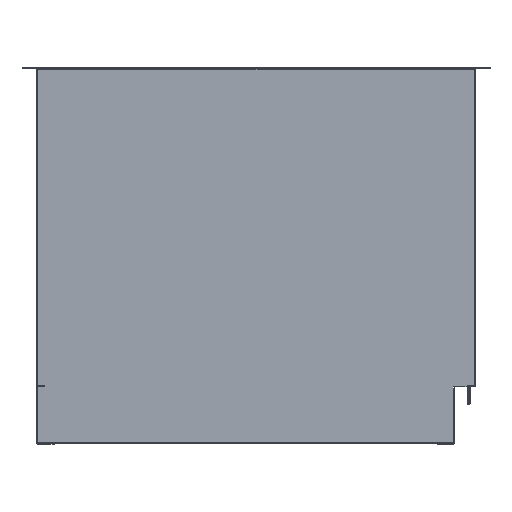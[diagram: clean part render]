
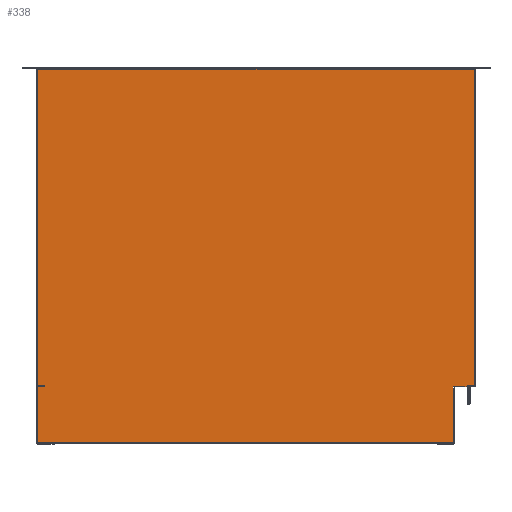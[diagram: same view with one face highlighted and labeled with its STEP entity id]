
A CAD part, front view. The second image highlights one B-rep face of the part: STEP entity #338.
In plain terms, the highlighted planar face has unit normal (0, -1, -0.013) as drawn and (0, 0, -1) by its records, which use the part's own axes.
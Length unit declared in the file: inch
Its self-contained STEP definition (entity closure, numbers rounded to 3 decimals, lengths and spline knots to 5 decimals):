
#173 = VECTOR ( 'NONE', #6915, 39.37008 ) ;
#275 = LINE ( 'NONE', #10869, #173 ) ;
#338 = ADVANCED_FACE ( 'NONE', ( #4353 ), #1109, .T. ) ;
#1027 = DIRECTION ( 'NONE',  ( -1., 0., 0. ) ) ;
#1076 = DIRECTION ( 'NONE',  ( 0., 0., -1. ) ) ;
#1109 = PLANE ( 'NONE',  #19616 ) ;
#1199 = VERTEX_POINT ( 'NONE', #22303 ) ;
#1306 = ORIENTED_EDGE ( 'NONE', *, *, #1468, .F. ) ;
#1341 = CARTESIAN_POINT ( 'NONE',  ( 42.54265, 1.01853, -0.06 ) ) ;
#1468 = EDGE_CURVE ( 'NONE', #13796, #9338, #20272, .T. ) ;
#1836 = EDGE_CURVE ( 'NONE', #7203, #2428, #18814, .T. ) ;
#2428 = VERTEX_POINT ( 'NONE', #25535 ) ;
#2785 = EDGE_CURVE ( 'NONE', #7513, #15012, #15628, .T. ) ;
#3073 = CARTESIAN_POINT ( 'NONE',  ( 11.93096, 0.77156, -0.06 ) ) ;
#3152 = DIRECTION ( 'NONE',  ( 0., -1., 0. ) ) ;
#3311 = ORIENTED_EDGE ( 'NONE', *, *, #22302, .F. ) ;
#3358 = VECTOR ( 'NONE', #9133, 39.37008 ) ;
#3447 = EDGE_CURVE ( 'NONE', #7431, #13258, #12624, .T. ) ;
#3510 = EDGE_CURVE ( 'NONE', #13796, #1199, #12276, .T. ) ;
#3658 = CARTESIAN_POINT ( 'NONE',  ( 47.73265, 42.78261, -0.06 ) ) ;
#3679 = VECTOR ( 'NONE', #20060, 39.37008 ) ;
#4166 = CARTESIAN_POINT ( 'NONE',  ( 42.54265, 2.76816, -0.06 ) ) ;
#4206 = VERTEX_POINT ( 'NONE', #6748 ) ;
#4301 = LINE ( 'NONE', #4166, #3679 ) ;
#4353 = FACE_OUTER_BOUND ( 'NONE', #13655, .T. ) ;
#4771 = ORIENTED_EDGE ( 'NONE', *, *, #16425, .F. ) ;
#4832 = DIRECTION ( 'NONE',  ( 0., -1., 0. ) ) ;
#4988 = DIRECTION ( 'NONE',  ( 0., -1., 0. ) ) ;
#5519 = VERTEX_POINT ( 'NONE', #3073 ) ;
#5821 = CARTESIAN_POINT ( 'NONE',  ( 47.73265, 42.666, -0.06 ) ) ;
#6451 = CARTESIAN_POINT ( 'NONE',  ( 42.54265, 2.71156, -0.06 ) ) ;
#6683 = EDGE_CURVE ( 'NONE', #7203, #13739, #275, .T. ) ;
#6748 = CARTESIAN_POINT ( 'NONE',  ( 42.41765, 0.76816, -0.06 ) ) ;
#6775 = CARTESIAN_POINT ( 'NONE',  ( 47.73265, 2.80531, -0.06 ) ) ;
#6915 = DIRECTION ( 'NONE',  ( -1., 0., 0. ) ) ;
#7203 = VERTEX_POINT ( 'NONE', #14223 ) ;
#7424 = CARTESIAN_POINT ( 'NONE',  ( 47.79265, 42.62886, -0.06 ) ) ;
#7431 = VERTEX_POINT ( 'NONE', #8173 ) ;
#7449 = DIRECTION ( 'NONE',  ( -1., 0., 0. ) ) ;
#7513 = VERTEX_POINT ( 'NONE', #5821 ) ;
#8136 = LINE ( 'NONE', #12810, #10353 ) ;
#8173 = CARTESIAN_POINT ( 'NONE',  ( 11.99935, 0.77156, -0.06 ) ) ;
#8442 = CARTESIAN_POINT ( 'NONE',  ( 11.99935, 42.666, -0.06 ) ) ;
#9054 = LINE ( 'NONE', #7424, #21834 ) ;
#9133 = DIRECTION ( 'NONE',  ( -1., 0., 0. ) ) ;
#9312 = ORIENTED_EDGE ( 'NONE', *, *, #3510, .T. ) ;
#9338 = VERTEX_POINT ( 'NONE', #16076 ) ;
#9365 = LINE ( 'NONE', #18150, #17469 ) ;
#9495 = VERTEX_POINT ( 'NONE', #9540 ) ;
#9540 = CARTESIAN_POINT ( 'NONE',  ( 11.93096, 42.66261, -0.06 ) ) ;
#9740 = ORIENTED_EDGE ( 'NONE', *, *, #18416, .T. ) ;
#10353 = VECTOR ( 'NONE', #12782, 39.37008 ) ;
#10869 = CARTESIAN_POINT ( 'NONE',  ( 42.54265, 2.77156, -0.06 ) ) ;
#10896 = LINE ( 'NONE', #20702, #17781 ) ;
#10941 = EDGE_CURVE ( 'NONE', #20852, #15012, #9054, .T. ) ;
#11031 = CARTESIAN_POINT ( 'NONE',  ( 42.54265, 0.76816, -0.06 ) ) ;
#11926 = CARTESIAN_POINT ( 'NONE',  ( 47.73605, 1.01853, -0.06 ) ) ;
#12185 = ORIENTED_EDGE ( 'NONE', *, *, #1836, .F. ) ;
#12252 = VECTOR ( 'NONE', #24742, 39.37008 ) ;
#12276 = LINE ( 'NONE', #6775, #12252 ) ;
#12540 = VECTOR ( 'NONE', #4832, 39.37008 ) ;
#12624 = LINE ( 'NONE', #17203, #12540 ) ;
#12782 = DIRECTION ( 'NONE',  ( 0., 1., 0. ) ) ;
#12810 = CARTESIAN_POINT ( 'NONE',  ( 11.93096, 1.01853, -0.06 ) ) ;
#12824 = ORIENTED_EDGE ( 'NONE', *, *, #22554, .T. ) ;
#13059 = DIRECTION ( 'NONE',  ( 0., 1., 0. ) ) ;
#13258 = VERTEX_POINT ( 'NONE', #15885 ) ;
#13655 = EDGE_LOOP ( 'NONE', ( #4771, #12824, #20932, #24270, #24024, #9740, #19845, #24555, #15159, #21673, #24108, #1306, #9312, #3311, #12185, #20261 ) ) ;
#13739 = VERTEX_POINT ( 'NONE', #24292 ) ;
#13782 = EDGE_CURVE ( 'NONE', #7431, #5519, #21527, .T. ) ;
#13796 = VERTEX_POINT ( 'NONE', #15852 ) ;
#13933 = LINE ( 'NONE', #24561, #20890 ) ;
#14034 = CARTESIAN_POINT ( 'NONE',  ( 42.41765, 0.71156, -0.06 ) ) ;
#14223 = CARTESIAN_POINT ( 'NONE',  ( 42.54265, 2.77156, -0.06 ) ) ;
#14414 = LINE ( 'NONE', #11031, #3358 ) ;
#15012 = VERTEX_POINT ( 'NONE', #20666 ) ;
#15159 = ORIENTED_EDGE ( 'NONE', *, *, #2785, .T. ) ;
#15188 = CARTESIAN_POINT ( 'NONE',  ( 11.99935, 42.66261, -0.06 ) ) ;
#15205 = EDGE_CURVE ( 'NONE', #5519, #9495, #8136, .T. ) ;
#15628 = LINE ( 'NONE', #3658, #15729 ) ;
#15729 = VECTOR ( 'NONE', #3152, 39.37008 ) ;
#15852 = CARTESIAN_POINT ( 'NONE',  ( 47.73265, 2.80531, -0.06 ) ) ;
#15885 = CARTESIAN_POINT ( 'NONE',  ( 11.99935, 0.76816, -0.06 ) ) ;
#16076 = CARTESIAN_POINT ( 'NONE',  ( 47.73605, 2.80531, -0.06 ) ) ;
#16092 = EDGE_CURVE ( 'NONE', #23866, #7513, #9365, .T. ) ;
#16269 = VERTEX_POINT ( 'NONE', #15188 ) ;
#16425 = EDGE_CURVE ( 'NONE', #4206, #13739, #25455, .T. ) ;
#17203 = CARTESIAN_POINT ( 'NONE',  ( 11.99935, -0.98147, -0.06 ) ) ;
#17469 = VECTOR ( 'NONE', #18182, 39.37008 ) ;
#17781 = VECTOR ( 'NONE', #20619, 39.37008 ) ;
#18127 = EDGE_CURVE ( 'NONE', #23866, #16269, #13933, .T. ) ;
#18150 = CARTESIAN_POINT ( 'NONE',  ( 42.54265, 42.666, -0.06 ) ) ;
#18182 = DIRECTION ( 'NONE',  ( 1., 0., 0. ) ) ;
#18416 = EDGE_CURVE ( 'NONE', #9495, #16269, #10896, .T. ) ;
#18814 = LINE ( 'NONE', #6451, #18843 ) ;
#18843 = VECTOR ( 'NONE', #4988, 39.37008 ) ;
#19082 = LINE ( 'NONE', #11926, #24243 ) ;
#19353 = CARTESIAN_POINT ( 'NONE',  ( 47.79265, 2.80531, -0.06 ) ) ;
#19616 = AXIS2_PLACEMENT_3D ( 'NONE', #1341, #1076, #1027 ) ;
#19845 = ORIENTED_EDGE ( 'NONE', *, *, #18127, .F. ) ;
#20045 = DIRECTION ( 'NONE',  ( 1., 0., 0. ) ) ;
#20060 = DIRECTION ( 'NONE',  ( 1., 0., 0. ) ) ;
#20261 = ORIENTED_EDGE ( 'NONE', *, *, #6683, .T. ) ;
#20272 = LINE ( 'NONE', #19353, #20384 ) ;
#20384 = VECTOR ( 'NONE', #20045, 39.37008 ) ;
#20585 = CARTESIAN_POINT ( 'NONE',  ( 11.99935, 0.77156, -0.06 ) ) ;
#20619 = DIRECTION ( 'NONE',  ( 1., 0., 0. ) ) ;
#20666 = CARTESIAN_POINT ( 'NONE',  ( 47.73265, 42.62886, -0.06 ) ) ;
#20702 = CARTESIAN_POINT ( 'NONE',  ( 11.99935, 42.66261, -0.06 ) ) ;
#20753 = DIRECTION ( 'NONE',  ( -1., 0., 0. ) ) ;
#20852 = VERTEX_POINT ( 'NONE', #21769 ) ;
#20890 = VECTOR ( 'NONE', #24496, 39.37008 ) ;
#20925 = VECTOR ( 'NONE', #20753, 39.37008 ) ;
#20932 = ORIENTED_EDGE ( 'NONE', *, *, #3447, .F. ) ;
#21527 = LINE ( 'NONE', #20585, #20925 ) ;
#21673 = ORIENTED_EDGE ( 'NONE', *, *, #10941, .F. ) ;
#21769 = CARTESIAN_POINT ( 'NONE',  ( 47.73605, 42.62886, -0.06 ) ) ;
#21834 = VECTOR ( 'NONE', #7449, 39.37008 ) ;
#22302 = EDGE_CURVE ( 'NONE', #2428, #1199, #4301, .T. ) ;
#22303 = CARTESIAN_POINT ( 'NONE',  ( 47.73265, 2.76816, -0.06 ) ) ;
#22554 = EDGE_CURVE ( 'NONE', #4206, #13258, #14414, .T. ) ;
#23851 = DIRECTION ( 'NONE',  ( 0., -1., 0. ) ) ;
#23866 = VERTEX_POINT ( 'NONE', #8442 ) ;
#23928 = VECTOR ( 'NONE', #13059, 39.37008 ) ;
#24024 = ORIENTED_EDGE ( 'NONE', *, *, #15205, .T. ) ;
#24108 = ORIENTED_EDGE ( 'NONE', *, *, #25072, .T. ) ;
#24243 = VECTOR ( 'NONE', #23851, 39.37008 ) ;
#24270 = ORIENTED_EDGE ( 'NONE', *, *, #13782, .T. ) ;
#24292 = CARTESIAN_POINT ( 'NONE',  ( 42.41765, 2.77156, -0.06 ) ) ;
#24496 = DIRECTION ( 'NONE',  ( 0., -1., 0. ) ) ;
#24555 = ORIENTED_EDGE ( 'NONE', *, *, #16092, .T. ) ;
#24561 = CARTESIAN_POINT ( 'NONE',  ( 11.99935, 42.72261, -0.06 ) ) ;
#24742 = DIRECTION ( 'NONE',  ( 0., -1., 0. ) ) ;
#25072 = EDGE_CURVE ( 'NONE', #20852, #9338, #19082, .T. ) ;
#25455 = LINE ( 'NONE', #14034, #23928 ) ;
#25535 = CARTESIAN_POINT ( 'NONE',  ( 42.54265, 2.76816, -0.06 ) ) ;
